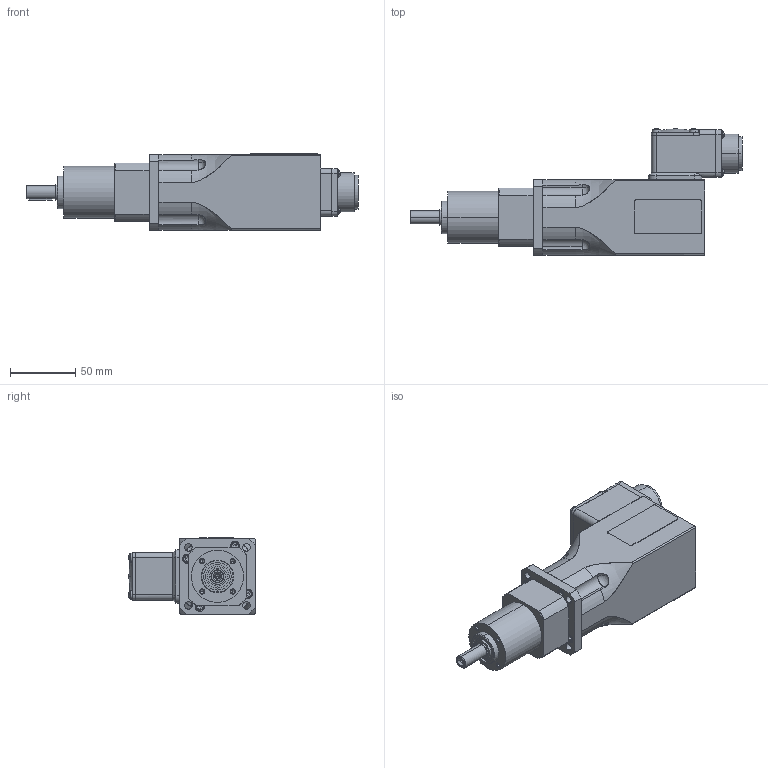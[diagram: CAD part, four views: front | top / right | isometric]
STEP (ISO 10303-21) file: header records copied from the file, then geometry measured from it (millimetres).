
FILE_DESCRIPTION(('STEP AP214'),'1');
FILE_NAME('Z:/TurboCAD/Motor-Getriebe-Kombinationen/EGK/tmp0.STP','2015-03-19T12:31:15',(' '),(' '),'Spatial InterOp 3D',' ',' ');
FILE_SCHEMA(('automotive_design'));
Length unit declared in the file: millimetre
Products named in the file (368): NONE; PD040-1
Bounding box: 254.75 x 97.05 x 58.5 mm (x, y, z)
Volume: 88308.4 mm3; surface area: 77796.1 mm2
Topology: 1 solids, 380 shells, 566 faces, 2311 edges, 2126 vertices
Faces by surface type: plane 232, cylinder 157, bspline 75, cone 70, sphere 18, torus 14
Entity records: 40855 total; most frequent: CARTESIAN_POINT 8755, DIRECTION 4534, ORIENTED_EDGE 2699, EDGE_CURVE 2281, VERTEX_POINT 2126, AXIS2_PLACEMENT_3D 1685, LINE 1164, VECTOR 1164
